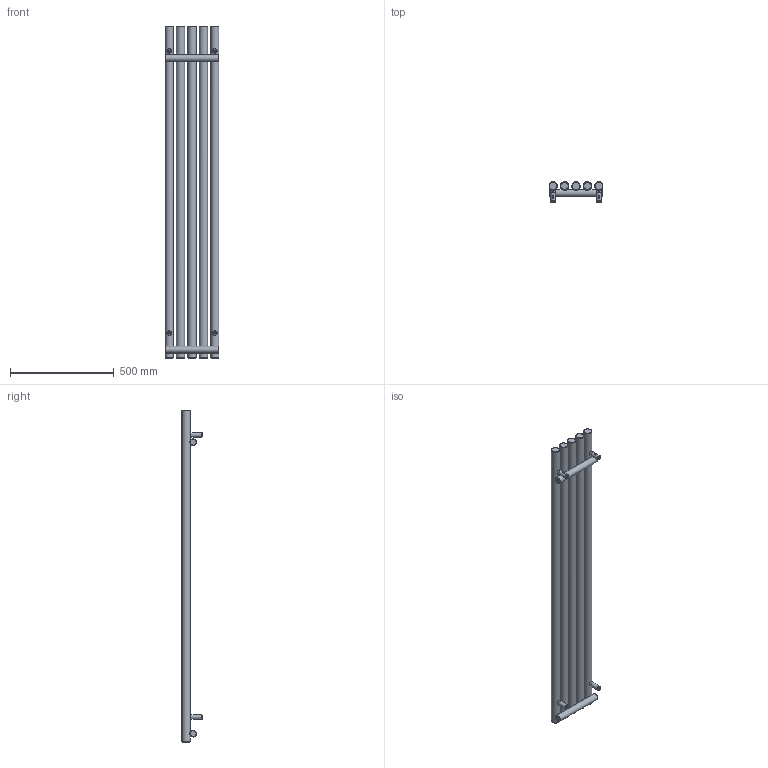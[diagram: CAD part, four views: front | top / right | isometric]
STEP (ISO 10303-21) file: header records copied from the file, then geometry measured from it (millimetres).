
FILE_DESCRIPTION(/* description */ (''),/* implementation_level */ '2;1');
FILE_NAME(/* name */ 'Z:\R\G\P\RGP116 - Grzejniki Geyser\Work\Inventor\Circolo (Rolo V, Rolo H)\ROLO-ROOM\Marketing\Bryły 3D\Zaokrąglone\WLROR160026-ES-CK-(Z).stp',/* time_stamp */ '2024-03-29T15:54:20+01:00',/* author */ ('NowAd'),/* organization */ (''),/* preprocessor_version */ 'ST-DEVELOPER v17.2',/* originating_system */ 'Autodesk Inventor 2019',/* authorisation */ '');
FILE_SCHEMA (('AUTOMOTIVE_DESIGN { 1 0 10303 214 3 1 1 }'));
Length unit declared in the file: millimetre
Products named in the file (3): WLROR160026-ES-CK-(Z); PGROR160026-ES-CK-(K); CK-V-fi40 marketing
Assembly tree (5 placements, depth 2):
  WLROR160026-ES-CK-(Z)
    PGROR160026-ES-CK-(K)
    CK-V-fi40 marketing  x4
Bounding box: 260 x 96.5 x 1600 mm (x, y, z)
Volume: 10512743.1 mm3; surface area: 1099107.9 mm2
Topology: 5 solids, 5 shells, 317 faces, 799 edges, 534 vertices
Faces by surface type: plane 132, cylinder 73, cone 60, torus 42, bspline 10
Full cylindrical faces by diameter (mm): 4.134 x4, 4.48 x4, 6.4 x4, 10 x4, 12 x4, 15.834 x4, 16 x4, 18.631 x2, 22 x4, 32 x2, 40 x5
Entity records: 6398 total; most frequent: CARTESIAN_POINT 3162, DIRECTION 676, ORIENTED_EDGE 636, EDGE_CURVE 318, AXIS2_PLACEMENT_3D 301, VERTEX_POINT 216, EDGE_LOOP 172, CIRCLE 161
